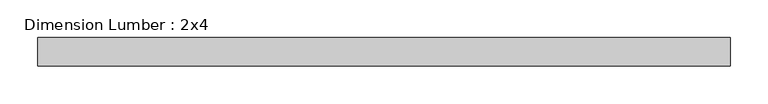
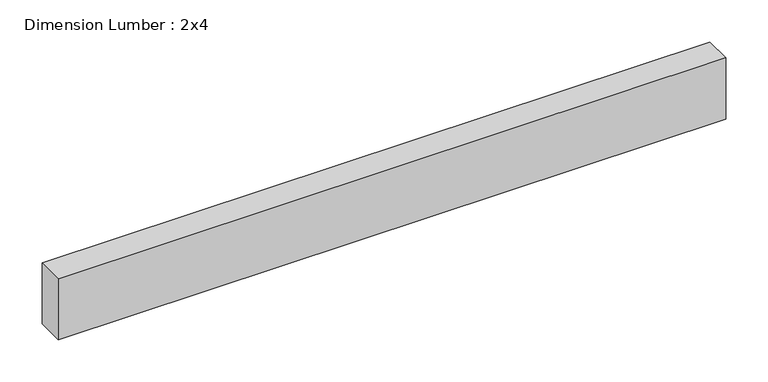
"""IFC4 building model written with IfcOpenShell, lengths in millimetres: beam geometry, Dimension Lumber : 2x4."""

from ifc_helpers import new_model, si_unit, frame, origin, place, context, project, spatial, polyline, outline, extrude, source, transform, mapped, element, save


def dimension_lumber_2x4_16b532e9(model_context):
    return source(origin(), model_context, "Body", "SweptSolid", [
        extrude(outline(polyline([(459.0520833, 19.05), (459.0520833, -19.05), (-459.0520833, -19.05), (-459.0520833, 19.05), (459.0520833, 19.05)])), frame((0.0, 0.0, -44.45), z_axis=(0.0, 0.0, 1.0), x_axis=(1.0, 0.0, 0.0)), (0.0, 0.0, 1.0), 88.9),
    ])


if __name__ == "__main__":
    model = new_model("IFC4")
    model_context = context("Model", 3, world=origin())
    ifc_project = project(units=[si_unit("LENGTHUNIT", "METRE", prefix="MILLI")], contexts=[model_context])
    site = spatial("IfcSite", under=ifc_project)
    building = spatial("IfcBuilding", under=site)
    placement = place(None, origin())
    dimension_lumber_2x4_shape = dimension_lumber_2x4_16b532e9(model_context)
    element("IfcBeam", 1, ObjectType="Dimension Lumber : 2x4", at=placement, inside=building, context=model_context, shape_type="MappedRepresentation", body=[
        mapped(dimension_lumber_2x4_shape, transform((0.0, 0.0, 0.0), x_axis=(1.0, 0.0, 0.0), y_axis=(0.0, 1.0, 0.0), z_axis=(0.0, 0.0, 1.0))),
    ])
    save(model, "model.ifc")
